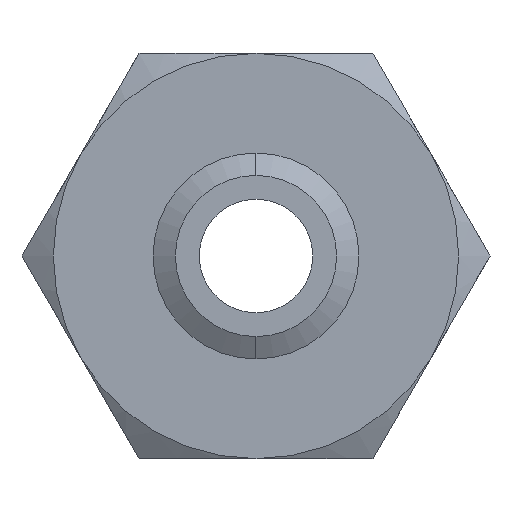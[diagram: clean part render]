
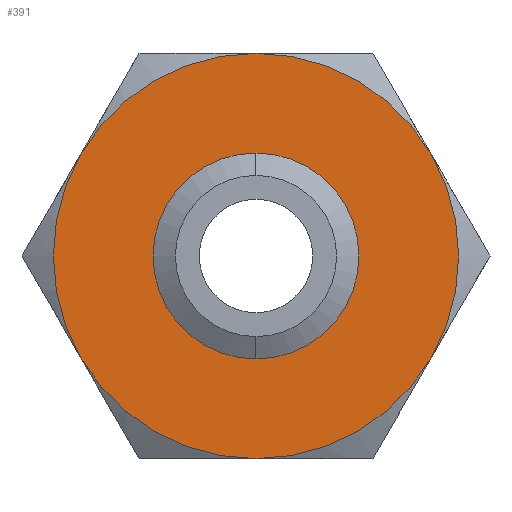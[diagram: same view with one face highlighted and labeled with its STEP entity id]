
A CAD part, front view. The second image highlights one B-rep face of the part: STEP entity #391.
In plain terms, the highlighted planar face has unit normal (0, -1, 0).
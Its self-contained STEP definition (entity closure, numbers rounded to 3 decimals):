
#370 = ORIENTED_EDGE ( 'NONE', *, *, #371, .F. ) ;
#371 = EDGE_CURVE ( 'NONE', #1031, #999, #1169, .T. ) ;
#372 = ORIENTED_EDGE ( 'NONE', *, *, #376, .F. ) ;
#373 = ORIENTED_EDGE ( 'NONE', *, *, #374, .F. ) ;
#374 = EDGE_CURVE ( 'NONE', #381, #377, #1227, .T. ) ;
#375 = VERTEX_POINT ( 'NONE', #1222 ) ;
#376 = EDGE_CURVE ( 'NONE', #380, #379, #1221, .T. ) ;
#377 = VERTEX_POINT ( 'NONE', #1216 ) ;
#378 = EDGE_CURVE ( 'NONE', #379, #381, #1214, .T. ) ;
#379 = VERTEX_POINT ( 'NONE', #1215 ) ;
#380 = VERTEX_POINT ( 'NONE', #1209 ) ;
#381 = VERTEX_POINT ( 'NONE', #1208 ) ;
#382 = ORIENTED_EDGE ( 'NONE', *, *, #378, .F. ) ;
#383 = ORIENTED_EDGE ( 'NONE', *, *, #387, .F. ) ;
#384 = VERTEX_POINT ( 'NONE', #1207 ) ;
#385 = EDGE_CURVE ( 'NONE', #375, #380, #1205, .T. ) ;
#386 = ORIENTED_EDGE ( 'NONE', *, *, #1829, .F. ) ;
#387 = EDGE_CURVE ( 'NONE', #377, #384, #1261, .T. ) ;
#388 = EDGE_CURVE ( 'NONE', #384, #375, #1256, .T. ) ;
#389 = ORIENTED_EDGE ( 'NONE', *, *, #385, .F. ) ;
#390 = EDGE_LOOP ( 'NONE', ( #386, #370 ) ) ;
#391 = ADVANCED_FACE ( 'NONE', ( #1251, #1250 ), #1249, .F. ) ;
#395 = EDGE_LOOP ( 'NONE', ( #396, #383, #373, #382, #372, #389 ) ) ;
#396 = ORIENTED_EDGE ( 'NONE', *, *, #388, .F. ) ;
#999 = VERTEX_POINT ( 'NONE', #1513 ) ;
#1031 = VERTEX_POINT ( 'NONE', #1512 ) ;
#1169 = CIRCLE ( 'NONE', #1231, 9.946 ) ;
#1201 = DIRECTION ( 'NONE',  ( 0., 0., 1. ) ) ;
#1202 = DIRECTION ( 'NONE',  ( 0., 1., 0. ) ) ;
#1203 = CARTESIAN_POINT ( 'NONE',  ( 0., 0., 0. ) ) ;
#1204 = AXIS2_PLACEMENT_3D ( 'NONE', #1203, #1202, #1201 ) ;
#1205 = CIRCLE ( 'NONE', #1204, 25. ) ;
#1207 = CARTESIAN_POINT ( 'NONE',  ( 0., 0., 25. ) ) ;
#1208 = CARTESIAN_POINT ( 'NONE',  ( -21.651, 0., -12.5 ) ) ;
#1209 = CARTESIAN_POINT ( 'NONE',  ( 21.651, 0., -12.5 ) ) ;
#1210 = DIRECTION ( 'NONE',  ( 0., 0., 1. ) ) ;
#1211 = DIRECTION ( 'NONE',  ( 0., 1., 0. ) ) ;
#1212 = CARTESIAN_POINT ( 'NONE',  ( 0., 0., 0. ) ) ;
#1213 = AXIS2_PLACEMENT_3D ( 'NONE', #1212, #1211, #1210 ) ;
#1214 = CIRCLE ( 'NONE', #1213, 25. ) ;
#1215 = CARTESIAN_POINT ( 'NONE',  ( 0., 0., -25. ) ) ;
#1216 = CARTESIAN_POINT ( 'NONE',  ( -21.651, 0., 12.5 ) ) ;
#1217 = DIRECTION ( 'NONE',  ( 0., 0., 1. ) ) ;
#1218 = DIRECTION ( 'NONE',  ( 0., 1., 0. ) ) ;
#1219 = CARTESIAN_POINT ( 'NONE',  ( 0., 0., 0. ) ) ;
#1220 = AXIS2_PLACEMENT_3D ( 'NONE', #1219, #1218, #1217 ) ;
#1221 = CIRCLE ( 'NONE', #1220, 25. ) ;
#1222 = CARTESIAN_POINT ( 'NONE',  ( 21.651, 0., 12.5 ) ) ;
#1223 = DIRECTION ( 'NONE',  ( 0., 0., 1. ) ) ;
#1224 = DIRECTION ( 'NONE',  ( 0., 1., 0. ) ) ;
#1225 = CARTESIAN_POINT ( 'NONE',  ( 0., 0., 0. ) ) ;
#1226 = AXIS2_PLACEMENT_3D ( 'NONE', #1225, #1224, #1223 ) ;
#1227 = CIRCLE ( 'NONE', #1226, 25. ) ;
#1228 = DIRECTION ( 'NONE',  ( 0., 0., -1. ) ) ;
#1229 = DIRECTION ( 'NONE',  ( 0., -1., 0. ) ) ;
#1230 = CARTESIAN_POINT ( 'NONE',  ( 0., 0., 0. ) ) ;
#1231 = AXIS2_PLACEMENT_3D ( 'NONE', #1230, #1229, #1228 ) ;
#1244 = DIRECTION ( 'NONE',  ( 0., 0., 1. ) ) ;
#1245 = DIRECTION ( 'NONE',  ( 0., 1., 0. ) ) ;
#1246 = CARTESIAN_POINT ( 'NONE',  ( 14.434, 0., -25. ) ) ;
#1248 = AXIS2_PLACEMENT_3D ( 'NONE', #1246, #1245, #1244 ) ;
#1249 = PLANE ( 'NONE',  #1248 ) ;
#1250 = FACE_BOUND ( 'NONE', #390, .T. ) ;
#1251 = FACE_OUTER_BOUND ( 'NONE', #395, .T. ) ;
#1252 = DIRECTION ( 'NONE',  ( 0., 0., 1. ) ) ;
#1253 = DIRECTION ( 'NONE',  ( 0., 1., 0. ) ) ;
#1254 = CARTESIAN_POINT ( 'NONE',  ( 0., 0., 0. ) ) ;
#1255 = AXIS2_PLACEMENT_3D ( 'NONE', #1254, #1253, #1252 ) ;
#1256 = CIRCLE ( 'NONE', #1255, 25. ) ;
#1257 = DIRECTION ( 'NONE',  ( 0., 0., 1. ) ) ;
#1258 = DIRECTION ( 'NONE',  ( 0., 1., 0. ) ) ;
#1259 = CARTESIAN_POINT ( 'NONE',  ( 0., 0., 0. ) ) ;
#1260 = AXIS2_PLACEMENT_3D ( 'NONE', #1259, #1258, #1257 ) ;
#1261 = CIRCLE ( 'NONE', #1260, 25. ) ;
#1512 = CARTESIAN_POINT ( 'NONE',  ( 0., 0., 9.946 ) ) ;
#1513 = CARTESIAN_POINT ( 'NONE',  ( 0., 0., -9.946 ) ) ;
#1549 = DIRECTION ( 'NONE',  ( 0., 0., -1. ) ) ;
#1550 = DIRECTION ( 'NONE',  ( 0., -1., 0. ) ) ;
#1551 = CARTESIAN_POINT ( 'NONE',  ( 0., 0., 0. ) ) ;
#1552 = AXIS2_PLACEMENT_3D ( 'NONE', #1551, #1550, #1549 ) ;
#1553 = CIRCLE ( 'NONE', #1552, 9.946 ) ;
#1829 = EDGE_CURVE ( 'NONE', #999, #1031, #1553, .T. ) ;
